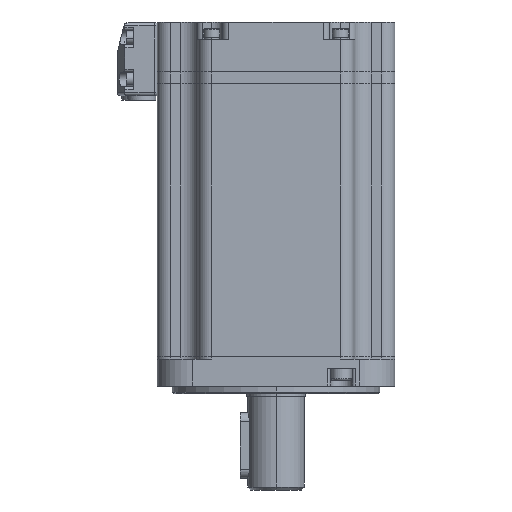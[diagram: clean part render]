
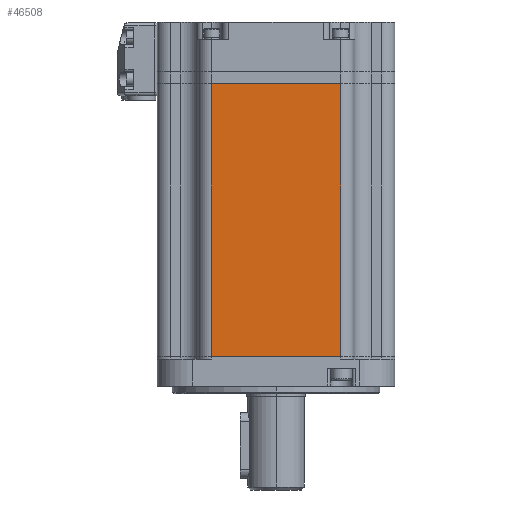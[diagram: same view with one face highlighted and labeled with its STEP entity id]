
A CAD part, left-side view. The second image highlights one B-rep face of the part: STEP entity #46508.
In plain terms, the highlighted planar face has unit normal (-1, 0, 0).
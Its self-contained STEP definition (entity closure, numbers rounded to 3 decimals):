
#367 = CARTESIAN_POINT ( 'NONE',  ( -40., 26.25, 91.9 ) ) ;
#2136 = ORIENTED_EDGE ( 'NONE', *, *, #30120, .F. ) ;
#2640 = DIRECTION ( 'NONE',  ( 0., 0., -1. ) ) ;
#3301 = DIRECTION ( 'NONE',  ( 0., 0., 1. ) ) ;
#6694 = CARTESIAN_POINT ( 'NONE',  ( -40., -21.75, 91.9 ) ) ;
#7923 = VERTEX_POINT ( 'NONE', #22466 ) ;
#10896 = AXIS2_PLACEMENT_3D ( 'NONE', #50923, #66753, #30100 ) ;
#12129 = EDGE_CURVE ( 'NONE', #20202, #63184, #33280, .T. ) ;
#17766 = LINE ( 'NONE', #367, #40324 ) ;
#20202 = VERTEX_POINT ( 'NONE', #27484 ) ;
#22466 = CARTESIAN_POINT ( 'NONE',  ( -40., 21.75, 91.9 ) ) ;
#24443 = CARTESIAN_POINT ( 'NONE',  ( -40., 21.75, 91.9 ) ) ;
#25825 = VECTOR ( 'NONE', #3301, 1000. ) ;
#27077 = VECTOR ( 'NONE', #2640, 1000. ) ;
#27484 = CARTESIAN_POINT ( 'NONE',  ( -40., -21.75, 0. ) ) ;
#30100 = DIRECTION ( 'NONE',  ( 0., 1., 0. ) ) ;
#30120 = EDGE_CURVE ( 'NONE', #7923, #63184, #17766, .T. ) ;
#33238 = CARTESIAN_POINT ( 'NONE',  ( -40., 26.25, 0. ) ) ;
#33280 = LINE ( 'NONE', #56437, #25825 ) ;
#34018 = LINE ( 'NONE', #33238, #59963 ) ;
#34516 = ORIENTED_EDGE ( 'NONE', *, *, #53194, .T. ) ;
#36892 = DIRECTION ( 'NONE',  ( 0., -1., 0. ) ) ;
#38565 = EDGE_CURVE ( 'NONE', #58543, #20202, #34018, .T. ) ;
#40324 = VECTOR ( 'NONE', #36892, 1000. ) ;
#41329 = LINE ( 'NONE', #24443, #27077 ) ;
#44055 = EDGE_LOOP ( 'NONE', ( #2136, #34516, #68648, #60008 ) ) ;
#46109 = CARTESIAN_POINT ( 'NONE',  ( -40., 21.75, 0. ) ) ;
#46508 = ADVANCED_FACE ( 'NONE', ( #58248 ), #56752, .F. ) ;
#50923 = CARTESIAN_POINT ( 'NONE',  ( -40., 26.25, 91.9 ) ) ;
#53194 = EDGE_CURVE ( 'NONE', #7923, #58543, #41329, .T. ) ;
#53856 = DIRECTION ( 'NONE',  ( 0., -1., 0. ) ) ;
#56437 = CARTESIAN_POINT ( 'NONE',  ( -40., -21.75, 91.9 ) ) ;
#56752 = PLANE ( 'NONE',  #10896 ) ;
#58248 = FACE_OUTER_BOUND ( 'NONE', #44055, .T. ) ;
#58543 = VERTEX_POINT ( 'NONE', #46109 ) ;
#59963 = VECTOR ( 'NONE', #53856, 1000. ) ;
#60008 = ORIENTED_EDGE ( 'NONE', *, *, #12129, .T. ) ;
#63184 = VERTEX_POINT ( 'NONE', #6694 ) ;
#66753 = DIRECTION ( 'NONE',  ( 1., 0., 0. ) ) ;
#68648 = ORIENTED_EDGE ( 'NONE', *, *, #38565, .T. ) ;
